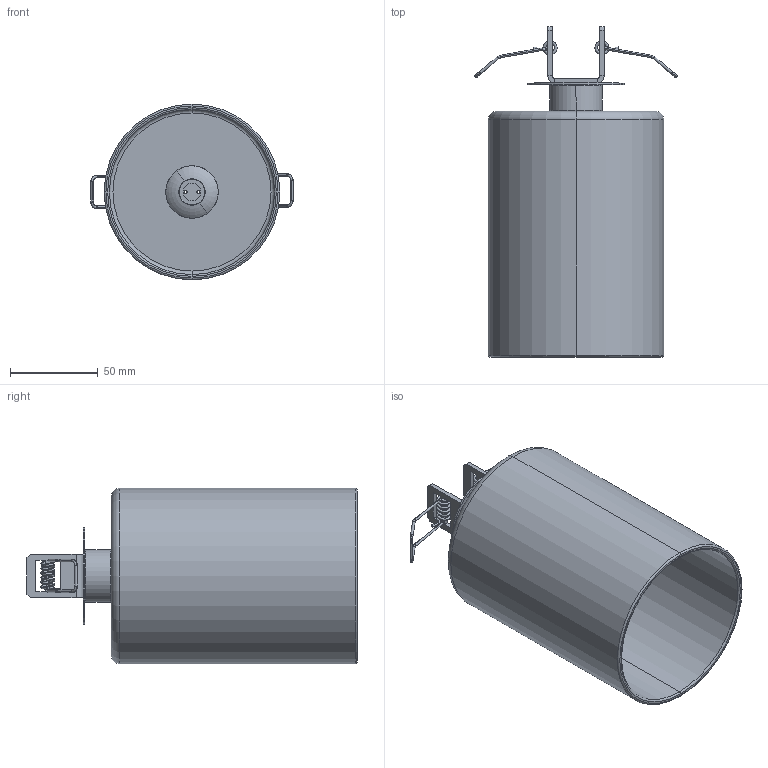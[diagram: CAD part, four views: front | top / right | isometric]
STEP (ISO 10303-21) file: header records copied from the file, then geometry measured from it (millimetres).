
FILE_DESCRIPTION (( 'STEP AP203' ), '1' );
FILE_NAME ('PLSPILIPXXCRINT-PER 3D.STEP', '2024-05-27T16:44:59', ( '' ), ( '' ), 'SwSTEP 2.0', 'SolidWorks 2024', '' );
FILE_SCHEMA (( 'CONFIG_CONTROL_DESIGN' ));
Length unit declared in the file: millimetre
Products named in the file (9): WSCM2A0135-0700-00; WSCM2C0055-0100-00; PLSPILIPXXCRINT-PER 3D; WSCM2C0165-0100-00; VSPILLRAYP140CS; WSCM2A0105-0700-00_WSCM2A0105-0744-00; MOLLAKITINCASSO; WSASS-000000049-44; AX27-DL-1-04
Assembly tree (9 placements, depth 3):
  PLSPILIPXXCRINT-PER 3D
    VSPILLRAYP140CS
    WSCM2C0165-0100-00
    WSCM2C0055-0100-00
    MOLLAKITINCASSO  x2
      AX27-DL-1-04
    WSASS-000000049-44
      WSCM2A0105-0700-00_WSCM2A0105-0744-00
    WSCM2A0135-0700-00
Bounding box: 115.15 x 188 x 100 mm (x, y, z)
Volume: 171190.6 mm3; surface area: 116839.6 mm2
Topology: 7 solids, 7 shells, 201 faces, 464 edges, 281 vertices
Faces by surface type: cylinder 64, plane 63, torus 42, cone 20, bspline 12
Entity records: 9187 total; most frequent: CARTESIAN_POINT 4282, DIRECTION 908, ORIENTED_EDGE 768, EDGE_CURVE 384, AXIS2_PLACEMENT_3D 361, VERTEX_POINT 233, EDGE_LOOP 191, LINE 186
